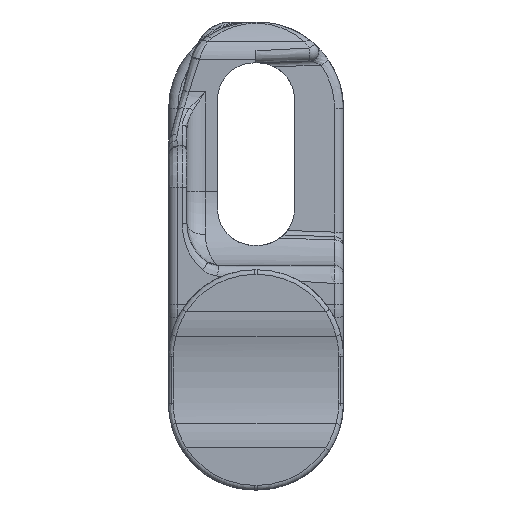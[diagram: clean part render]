
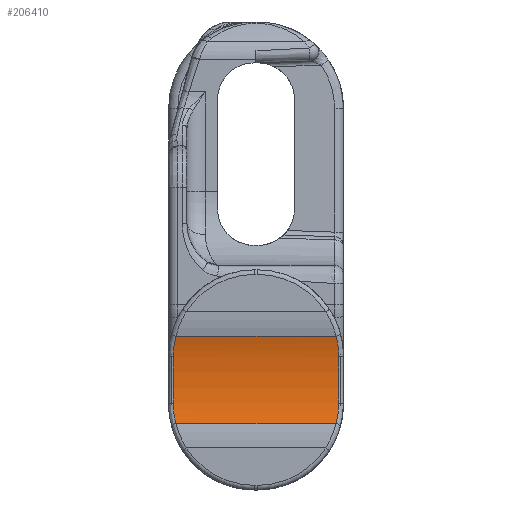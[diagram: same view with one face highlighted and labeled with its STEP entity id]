
A CAD part, left-side view. The second image highlights one B-rep face of the part: STEP entity #206410.
In plain terms, the highlighted cylindrical face has radius 18 mm (diameter 36 mm), a partial arc.
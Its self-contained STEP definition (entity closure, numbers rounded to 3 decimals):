
#198256=CARTESIAN_POINT('',(-4.768,2.643,
8.723));
#198257=CARTESIAN_POINT('',(-4.52,2.575,
8.791));
#198258=CARTESIAN_POINT('',(-4.025,2.45,
8.903));
#198259=CARTESIAN_POINT('',(-3.272,2.294,
9.003));
#198260=CARTESIAN_POINT('',(-2.777,2.214,
9.025));
#198261=CARTESIAN_POINT('',(-2.53,2.179,9.025));
#198266=DIRECTION('',(0.,0.,-1.));
#198267=VECTOR('',#198266,17.445);
#198268=CARTESIAN_POINT('',(-4.768,2.643,
8.723));
#198269=LINE('',#198268,#198267);
#198273=CARTESIAN_POINT('',(-2.53,2.179,-9.025));
#198274=CARTESIAN_POINT('',(-2.777,2.214,
-9.025));
#198275=CARTESIAN_POINT('',(-3.272,2.294,
-9.003));
#198276=CARTESIAN_POINT('',(-4.025,2.45,
-8.903));
#198277=CARTESIAN_POINT('',(-4.52,2.575,
-8.791));
#198278=CARTESIAN_POINT('',(-4.768,2.643,
-8.723));
#198283=CARTESIAN_POINT('',(0.,20.,-9.025));
#198284=DIRECTION('',(0.,0.,-1.));
#198285=DIRECTION('',(0.141,-0.99,0.));
#198286=AXIS2_PLACEMENT_3D('',#198283,#198284,#198285);
#198291=CARTESIAN_POINT('',(4.768,2.643,
-8.723));
#198292=CARTESIAN_POINT('',(4.52,2.575,
-8.791));
#198293=CARTESIAN_POINT('',(4.025,2.45,
-8.903));
#198294=CARTESIAN_POINT('',(3.272,2.294,
-9.003));
#198295=CARTESIAN_POINT('',(2.777,2.214,
-9.025));
#198296=CARTESIAN_POINT('',(2.53,2.179,-9.025));
#198301=DIRECTION('',(0.,0.,1.));
#198302=VECTOR('',#198301,17.445);
#198303=CARTESIAN_POINT('',(4.768,2.643,
-8.723));
#198304=LINE('',#198303,#198302);
#198308=CARTESIAN_POINT('',(2.53,2.179,9.025));
#198309=CARTESIAN_POINT('',(2.777,2.214,
9.025));
#198310=CARTESIAN_POINT('',(3.272,2.294,
9.003));
#198311=CARTESIAN_POINT('',(4.025,2.45,
8.903));
#198312=CARTESIAN_POINT('',(4.52,2.575,
8.791));
#198313=CARTESIAN_POINT('',(4.768,2.643,
8.723));
#198318=CARTESIAN_POINT('',(0.,20.,9.025));
#198319=DIRECTION('',(0.,0.,1.));
#198320=DIRECTION('',(-0.141,-0.99,0.));
#198321=AXIS2_PLACEMENT_3D('',#198318,#198319,#198320);
#198373=CARTESIAN_POINT('',(4.768,2.643,
-8.723));
#198491=CARTESIAN_POINT('',(-4.768,2.643,
8.723));
#202743=VERTEX_POINT('',#198491);
#202745=VERTEX_POINT('',#198261);
#202747=CARTESIAN_POINT('',(2.53,2.179,9.025));
#202748=VERTEX_POINT('',#202747);
#202751=VERTEX_POINT('',#198313);
#202767=VERTEX_POINT('',#198373);
#202769=VERTEX_POINT('',#198296);
#202771=CARTESIAN_POINT('',(-2.53,2.179,-9.025));
#202772=VERTEX_POINT('',#202771);
#202775=VERTEX_POINT('',#198278);
#206388=CARTESIAN_POINT('',(0.,20.,-11.43));
#206389=DIRECTION('',(0.,0.,1.));
#206390=DIRECTION('',(0.,1.,0.));
#206391=AXIS2_PLACEMENT_3D('',#206388,#206389,#206390);
#206392=CYLINDRICAL_SURFACE('',#206391,18.);
#206394=ORIENTED_EDGE('',*,*,#206393,.F.);
#206396=ORIENTED_EDGE('',*,*,#206395,.T.);
#206398=ORIENTED_EDGE('',*,*,#206397,.F.);
#206399=ORIENTED_EDGE('',*,*,#206378,.F.);
#206401=ORIENTED_EDGE('',*,*,#206400,.F.);
#206403=ORIENTED_EDGE('',*,*,#206402,.T.);
#206405=ORIENTED_EDGE('',*,*,#206404,.F.);
#206407=ORIENTED_EDGE('',*,*,#206406,.F.);
#206408=EDGE_LOOP('',(#206394,#206396,#206398,#206399,#206401,#206403,#206405,
#206407));
#206409=FACE_OUTER_BOUND('',#206408,.F.);
#198262=B_SPLINE_CURVE_WITH_KNOTS('',3,(#198256,#198257,#198258,#198259,#198260,
#198261),.UNSPECIFIED.,.F.,.F.,(4,1,1,4),(0.,0.333,
0.667,1.),.UNSPECIFIED.);
#198279=B_SPLINE_CURVE_WITH_KNOTS('',3,(#198273,#198274,#198275,#198276,#198277,
#198278),.UNSPECIFIED.,.F.,.F.,(4,1,1,4),(0.,0.333,
0.667,1.),.UNSPECIFIED.);
#198287=CIRCLE('',#198286,18.);
#198297=B_SPLINE_CURVE_WITH_KNOTS('',3,(#198291,#198292,#198293,#198294,#198295,
#198296),.UNSPECIFIED.,.F.,.F.,(4,1,1,4),(0.,0.333,
0.667,1.),.UNSPECIFIED.);
#198314=B_SPLINE_CURVE_WITH_KNOTS('',3,(#198308,#198309,#198310,#198311,#198312,
#198313),.UNSPECIFIED.,.F.,.F.,(4,1,1,4),(0.,0.333,
0.667,1.),.UNSPECIFIED.);
#198322=CIRCLE('',#198321,18.);
#206378=EDGE_CURVE('',#202769,#202772,#198287,.T.);
#206393=EDGE_CURVE('',#202743,#202745,#198262,.T.);
#206395=EDGE_CURVE('',#202743,#202775,#198269,.T.);
#206397=EDGE_CURVE('',#202772,#202775,#198279,.T.);
#206400=EDGE_CURVE('',#202767,#202769,#198297,.T.);
#206402=EDGE_CURVE('',#202767,#202751,#198304,.T.);
#206404=EDGE_CURVE('',#202748,#202751,#198314,.T.);
#206406=EDGE_CURVE('',#202745,#202748,#198322,.T.);
#206410=ADVANCED_FACE('',(#206409),#206392,.F.);
